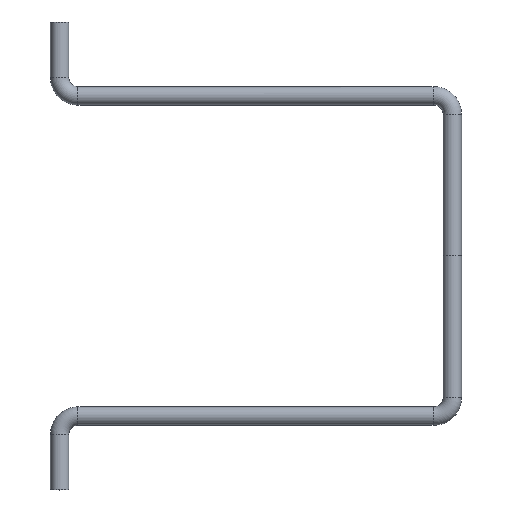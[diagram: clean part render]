
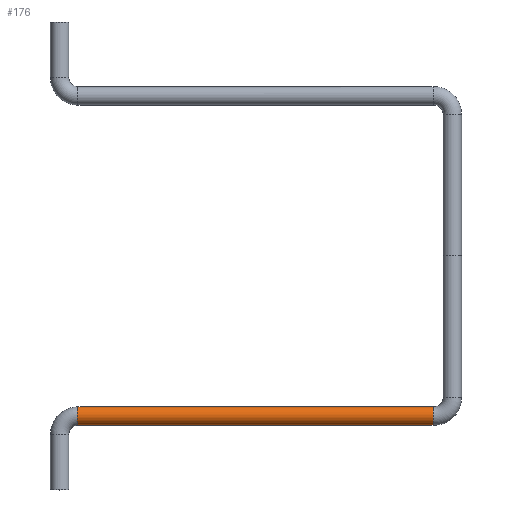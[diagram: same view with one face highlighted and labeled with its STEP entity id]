
A CAD part, top view. The second image highlights one B-rep face of the part: STEP entity #176.
In plain terms, the highlighted cylindrical face has radius 0.75 mm (diameter 1.5 mm), a partial arc.
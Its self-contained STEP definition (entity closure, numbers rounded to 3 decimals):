
#153=VECTOR('Line Direction',#152,1.) ;
#167=VECTOR('Line Direction',#166,1.) ;
#106=DIRECTION('Axis2P3D Direction',(0.996,0.,0.084)) ;
#147=DIRECTION('Axis2P3D Direction',(0.996,0.,0.084)) ;
#148=DIRECTION('Axis2P3D XDirection',(-0.007,0.996,0.083)) ;
#152=DIRECTION('Vector Direction',(0.996,0.,0.084)) ;
#159=DIRECTION('Axis2P3D Direction',(0.996,0.,0.084)) ;
#166=DIRECTION('Vector Direction',(0.996,0.,0.084)) ;
#102=CARTESIAN_POINT('Vertex',(951.855,-733.747,105.632)) ;
#105=CARTESIAN_POINT('Axis2P3D Location',(951.85,-733.,105.695)) ;
#109=CARTESIAN_POINT('Vertex',(951.845,-732.253,105.758)) ;
#146=CARTESIAN_POINT('Axis2P3D Location',(966.299,-733.,106.91)) ;
#151=CARTESIAN_POINT('Line Origine',(966.304,-733.747,106.847)) ;
#155=CARTESIAN_POINT('Vertex',(980.753,-733.747,108.062)) ;
#158=CARTESIAN_POINT('Axis2P3D Location',(980.748,-733.,108.124)) ;
#162=CARTESIAN_POINT('Vertex',(980.743,-732.253,108.187)) ;
#165=CARTESIAN_POINT('Line Origine',(966.294,-732.253,106.972)) ;
#107=AXIS2_PLACEMENT_3D('Circle Axis2P3D',#105,#106,$) ;
#149=AXIS2_PLACEMENT_3D('Cylinder Axis2P3D',#146,#147,#148) ;
#160=AXIS2_PLACEMENT_3D('Circle Axis2P3D',#158,#159,$) ;
#111=EDGE_CURVE('',#110,#103,#108,.T.) ;
#157=EDGE_CURVE('',#156,#103,#154,.F.) ;
#164=EDGE_CURVE('',#163,#156,#161,.T.) ;
#169=EDGE_CURVE('',#163,#110,#168,.F.) ;
#171=ORIENTED_EDGE('',*,*,#111,.T.) ;
#172=ORIENTED_EDGE('',*,*,#157,.F.) ;
#173=ORIENTED_EDGE('',*,*,#164,.F.) ;
#174=ORIENTED_EDGE('',*,*,#169,.T.) ;
#154=LINE('Line',#151,#153) ;
#168=LINE('Line',#165,#167) ;
#176=ADVANCED_FACE('\X2\51E04F554F53\X0\.3',(#175),#150,.T.) ;
#108=CIRCLE('generated circle',#107,0.75) ;
#161=CIRCLE('generated circle',#160,0.75) ;
#150=CYLINDRICAL_SURFACE('generated cylinder',#149,0.75) ;
#103=VERTEX_POINT('',#102) ;
#110=VERTEX_POINT('',#109) ;
#156=VERTEX_POINT('',#155) ;
#163=VERTEX_POINT('',#162) ;
#170=EDGE_LOOP('',(#171,#172,#173,#174)) ;
#175=FACE_OUTER_BOUND('',#170,.T.) ;
